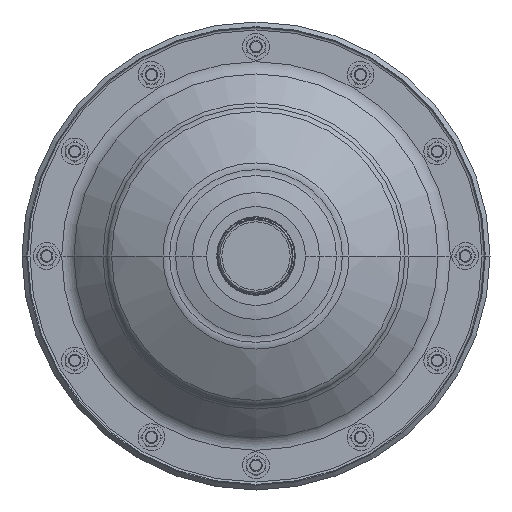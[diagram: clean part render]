
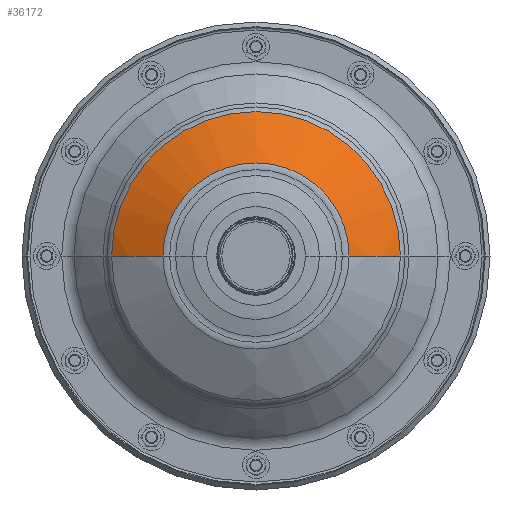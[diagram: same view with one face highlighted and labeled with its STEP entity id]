
A CAD part, front view. The second image highlights one B-rep face of the part: STEP entity #36172.
In plain terms, the highlighted free-form (B-spline) face has degree [3, 3] with [7, 4] control points.
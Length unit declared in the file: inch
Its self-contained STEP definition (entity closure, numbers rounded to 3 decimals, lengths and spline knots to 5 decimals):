
#1820 = CARTESIAN_POINT ( 'NONE',  ( -3.35998, -2.28212, -0.21139 ) ) ;
#3220 = ORIENTED_EDGE ( 'NONE', *, *, #19539, .T. ) ;
#5240 = EDGE_LOOP ( 'NONE', ( #11566, #34190, #16907, #3220 ) ) ;
#5758 = CIRCLE ( 'NONE', #32259, 7.12 ) ;
#6760 = CARTESIAN_POINT ( 'NONE',  ( -4.38089, -1.65467, 0. ) ) ;
#7421 = CARTESIAN_POINT ( 'NONE',  ( 0., -1.65467, 0. ) ) ;
#9617 = AXIS2_PLACEMENT_3D ( 'NONE', #32530, #15126, #30021 ) ;
#9855 = CARTESIAN_POINT ( 'NONE',  ( -2.71375, -1.63416, 4.40974 ) ) ;
#10402 = CARTESIAN_POINT ( 'NONE',  ( -1.71771, -2.49999, 2.79121 ) ) ;
#10681 = CARTESIAN_POINT ( 'NONE',  ( -2.40569, -1.9919, 3.90915 ) ) ;
#10951 = CARTESIAN_POINT ( 'NONE',  ( -2.89356, -2.49999, 1.53906 ) ) ;
#11566 = ORIENTED_EDGE ( 'NONE', *, *, #45177, .T. ) ;
#12010 = DIRECTION ( 'NONE',  ( 0.359, -0.933, 0. ) ) ;
#12542 = AXIS2_PLACEMENT_3D ( 'NONE', #23551, #27687, #49494 ) ;
#13794 = VERTEX_POINT ( 'NONE', #22003 ) ;
#14288 = CARTESIAN_POINT ( 'NONE',  ( 2.71375, -1.63416, 4.40974 ) ) ;
#14565 = CARTESIAN_POINT ( 'NONE',  ( 4.40104, -1.63416, -0.27689 ) ) ;
#14775 = VERTEX_POINT ( 'NONE', #6760 ) ;
#15126 = DIRECTION ( 'NONE',  ( 0., 0., -1. ) ) ;
#16907 = ORIENTED_EDGE ( 'NONE', *, *, #52221, .F. ) ;
#18448 = CARTESIAN_POINT ( 'NONE',  ( 0., -2.28212, 3.36662 ) ) ;
#18723 = FACE_OUTER_BOUND ( 'NONE', #5240, .T. ) ;
#18990 = CARTESIAN_POINT ( 'NONE',  ( 4.05249, -1.9919, 2.15548 ) ) ;
#19127 = VERTEX_POINT ( 'NONE', #51775 ) ;
#19247 = CARTESIAN_POINT ( 'NONE',  ( -4.57143, -1.63416, 2.4315 ) ) ;
#19539 = EDGE_CURVE ( 'NONE', #44341, #13794, #29327, .T. ) ;
#20454 = DIRECTION ( 'NONE',  ( 1., 0., 0. ) ) ;
#22003 = CARTESIAN_POINT ( 'NONE',  ( 2.82429, -2.48738, 0. ) ) ;
#22577 = CARTESIAN_POINT ( 'NONE',  ( -2.07182, -2.28212, 3.36662 ) ) ;
#22853 = CARTESIAN_POINT ( 'NONE',  ( 2.89356, -2.49999, 1.53906 ) ) ;
#23401 = CARTESIAN_POINT ( 'NONE',  ( -3.90144, -1.9919, -0.24546 ) ) ;
#23551 = CARTESIAN_POINT ( 'NONE',  ( 0., -2.48738, 0. ) ) ;
#26708 = CARTESIAN_POINT ( 'NONE',  ( 0., -1.9919, 3.90915 ) ) ;
#26985 = CARTESIAN_POINT ( 'NONE',  ( 2.78571, -2.49999, -0.17526 ) ) ;
#27687 = DIRECTION ( 'NONE',  ( 0., 1., 0. ) ) ;
#29327 = CIRCLE ( 'NONE', #12542, 2.82429 ) ;
#30021 = DIRECTION ( 'NONE',  ( -0.359, -0.933, 0. ) ) ;
#31156 = CARTESIAN_POINT ( 'NONE',  ( -4.40104, -1.63416, -0.27689 ) ) ;
#31164 = AXIS2_PLACEMENT_3D ( 'NONE', #7421, #41395, #20454 ) ;
#31418 = CARTESIAN_POINT ( 'NONE',  ( 2.40569, -1.9919, 3.90915 ) ) ;
#31990 = CARTESIAN_POINT ( 'NONE',  ( -2.82429, -2.48738, 0. ) ) ;
#32259 = AXIS2_PLACEMENT_3D ( 'NONE', #45410, #33574, #12010 ) ;
#32530 = CARTESIAN_POINT ( 'NONE',  ( -0.27, 4.15868, 0. ) ) ;
#33574 = DIRECTION ( 'NONE',  ( 0., 0., 1. ) ) ;
#34190 = ORIENTED_EDGE ( 'NONE', *, *, #38534, .T. ) ;
#35289 = CARTESIAN_POINT ( 'NONE',  ( 0., -1.63416, 4.40974 ) ) ;
#35570 = CARTESIAN_POINT ( 'NONE',  ( 4.57143, -1.63416, 2.4315 ) ) ;
#36172 = ADVANCED_FACE ( 'NONE', ( #18723 ), #45284, .T. ) ;
#38534 = EDGE_CURVE ( 'NONE', #19127, #14775, #39049, .T. ) ;
#39049 = CIRCLE ( 'NONE', #31164, 4.38089 ) ;
#39686 = CARTESIAN_POINT ( 'NONE',  ( -2.78571, -2.49999, -0.17526 ) ) ;
#40484 = CARTESIAN_POINT ( 'NONE',  ( -3.49007, -2.28212, 1.85634 ) ) ;
#41395 = DIRECTION ( 'NONE',  ( 0., -1., 0. ) ) ;
#43102 = CIRCLE ( 'NONE', #9617, 7.12 ) ;
#43521 = CARTESIAN_POINT ( 'NONE',  ( 2.07182, -2.28212, 3.36662 ) ) ;
#44065 = CARTESIAN_POINT ( 'NONE',  ( 3.35998, -2.28212, -0.21139 ) ) ;
#44341 = VERTEX_POINT ( 'NONE', #31990 ) ;
#45177 = EDGE_CURVE ( 'NONE', #13794, #19127, #5758, .T. ) ;
#45284 =( BOUNDED_SURFACE ( )  B_SPLINE_SURFACE ( 3, 3, ( 
 ( #39686, #1820, #23401, #31156 ),
 ( #10951, #40484, #53186, #19247 ),
 ( #10402, #22577, #10681, #9855 ),
 ( #47692, #18448, #26708, #35289 ),
 ( #52102, #43521, #31418, #14288 ),
 ( #22853, #47971, #18990, #35570 ),
 ( #26985, #44065, #52380, #14565 ) ),
 .UNSPECIFIED., .F., .F., .T. ) 
 B_SPLINE_SURFACE_WITH_KNOTS ( ( 4, 3, 4 ),
 ( 4, 4 ),
 ( 0., 1., 2. ),
 ( 0., 1. ),
 .UNSPECIFIED. ) 
 GEOMETRIC_REPRESENTATION_ITEM ( )  RATIONAL_B_SPLINE_SURFACE ( (
 ( 1.192, 1.186, 1.186, 1.192),
 ( 0.942, 0.936, 0.936, 0.942),
 ( 0.942, 0.936, 0.936, 0.942),
 ( 1.192, 1.186, 1.186, 1.192),
 ( 0.942, 0.936, 0.936, 0.942),
 ( 0.942, 0.936, 0.936, 0.942),
 ( 1.192, 1.186, 1.186, 1.192) ) ) 
 REPRESENTATION_ITEM ( '' )  SURFACE ( )  );
#45410 = CARTESIAN_POINT ( 'NONE',  ( 0.27, 4.15868, 0. ) ) ;
#47692 = CARTESIAN_POINT ( 'NONE',  ( 0., -2.49999, 2.79121 ) ) ;
#47971 = CARTESIAN_POINT ( 'NONE',  ( 3.49007, -2.28212, 1.85634 ) ) ;
#49494 = DIRECTION ( 'NONE',  ( -1., 0., 0. ) ) ;
#51775 = CARTESIAN_POINT ( 'NONE',  ( 4.38089, -1.65467, 0. ) ) ;
#52102 = CARTESIAN_POINT ( 'NONE',  ( 1.71771, -2.49999, 2.79121 ) ) ;
#52221 = EDGE_CURVE ( 'NONE', #44341, #14775, #43102, .T. ) ;
#52380 = CARTESIAN_POINT ( 'NONE',  ( 3.90144, -1.9919, -0.24546 ) ) ;
#53186 = CARTESIAN_POINT ( 'NONE',  ( -4.05249, -1.9919, 2.15548 ) ) ;
